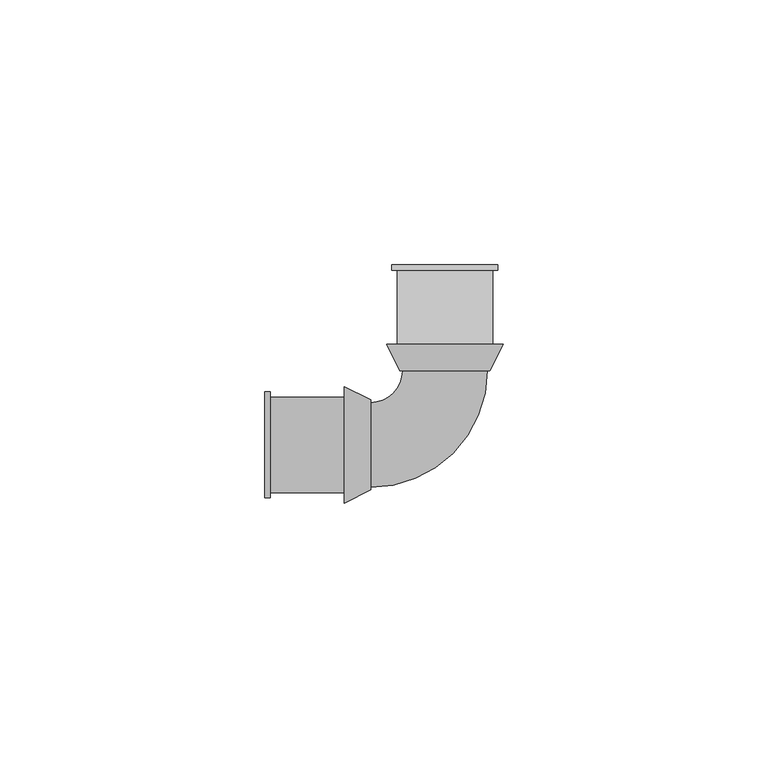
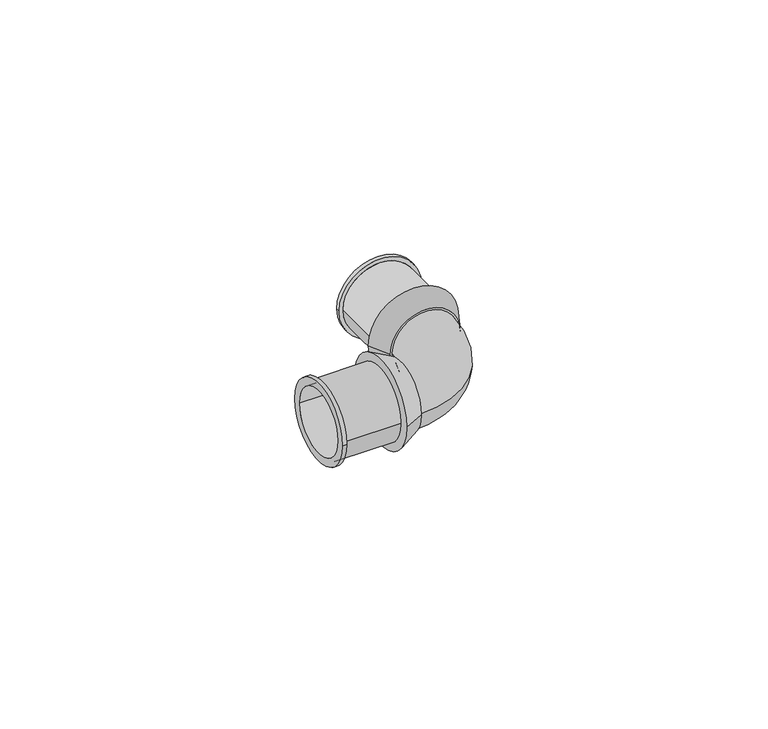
"""IFC4 building model written with IfcOpenShell, lengths in millimetres: pipe fitting geometry, SuperPipe_Elbow_SPressPlus : SuperPipe_Elbow_SPressPlus."""

from ifc_helpers import new_model, si_unit, point, frame, origin, place, context, project, spatial, polyline, circle_curve, ellipse_curve, trimmed, source, transform, mapped, element, save
from ifc_brep_helpers import plane_surface, cylinder_surface, revolved_surface, advanced_brep


def pipe_fitting_f86cb8b1(model_context):
    return source(origin(), model_context, "Body", "AdvancedBrep", [
        advanced_brep(
        [(-14.0, -8.5, 0.0), (-14.0, 8.5, 0.0), (-14.0, 8.0, 0.0), (-14.0, -8.0, 0.0), (-19.0, -11.0, 0.0), (-19.0, 11.0, 0.0), (-19.0, -8.0, 0.0), (-19.0, 8.0, 0.0)],
        [
            (0, 1, circle_curve(frame((-14.0, 0.0, 0.0), z_axis=(1.0, 0.0, 0.0), x_axis=(0.0, -1.0, 0.0)), 8.5)),
            (1, 0, circle_curve(frame((-14.0, 0.0, 0.0), z_axis=(1.0, 0.0, 0.0), x_axis=(0.0, 1.0, 0.0)), 8.5)),
            (2, 3, circle_curve(frame((-14.0, 0.0, 0.0), z_axis=(-1.0, 0.0, 0.0), x_axis=(0.0, 1.0, 0.0)), 8.0)),
            (3, 2, circle_curve(frame((-14.0, 0.0, 0.0), z_axis=(-1.0, 0.0, 0.0), x_axis=(0.0, 1.0, 0.0)), 8.0)),
            (4, 5, circle_curve(frame((-19.0, 0.0, 0.0), z_axis=(-1.0, 0.0, 0.0), x_axis=(0.0, 1.0, 0.0)), 11.0)),
            (5, 4, circle_curve(frame((-19.0, 0.0, 0.0), z_axis=(-1.0, 0.0, 0.0), x_axis=(0.0, -1.0, 0.0)), 11.0)),
            (6, 7, circle_curve(frame((-19.0, 0.0, 0.0), z_axis=(1.0, 0.0, 0.0), x_axis=(0.0, 1.0, 0.0)), 8.0)),
            (7, 6, circle_curve(frame((-19.0, 0.0, 0.0), z_axis=(1.0, 0.0, 0.0), x_axis=(0.0, 1.0, 0.0)), 8.0)),
            (0, 4),
            (5, 1),
            (2, 7),
            (6, 3),
        ],
        [
            plane_surface(frame((-14.0, 0.0, 0.0), z_axis=(1.0, 0.0, 0.0), x_axis=(0.0, 0.0, -1.0))),
            plane_surface(frame((-19.0, 0.0, 0.0), z_axis=(-1.0, 0.0, 0.0), x_axis=(0.0, 0.0, -1.0))),
            revolved_surface(polyline([(-14.0, -8.5, 0.0), (-19.0, -11.0, 0.0)]), (3.0, 0.0, 0.0), (-1.0, 0.0, 0.0)),
            revolved_surface(polyline([(-14.0, 8.5, 0.0), (-19.0, 11.0, 0.0)]), (3.0, 0.0, 0.0), (-1.0, 0.0, 0.0)),
            revolved_surface(polyline([(-14.0, 8.0, 0.0), (-19.0, 8.0, 0.0)]), (-19.0, 0.0, 0.0), (1.0, 0.0, 0.0)),
        ],
        [
            (0, [[1, 2], [3, 4]]),
            (1, [[5, 6], [7, 8]]),
            (2, [[-1, 9, -6, 10]]),
            (3, [[-2, -10, -5, -9]]),
            (4, [[11, -7, 12, -3]]),
            (4, [[-11, -4, -12, -8]]),
        ],
    ),
        advanced_brep(
        [(11.0, 19.0, 0.0), (-11.0, 19.0, 0.0), (8.0, 19.0, 0.0), (-8.0, 19.0, 0.0), (8.5, 14.0, 0.0), (-8.5, 14.0, 0.0), (-8.0, 14.0, 0.0), (8.0, 14.0, 0.0)],
        [
            (0, 1, circle_curve(frame((0.0, 19.0, 0.0), z_axis=(0.0, 1.0, 0.0), x_axis=(1.0, 0.0, 0.0)), 11.0)),
            (1, 0, circle_curve(frame((0.0, 19.0, 0.0), z_axis=(0.0, 1.0, 0.0), x_axis=(-1.0, 0.0, 0.0)), 11.0)),
            (2, 3, circle_curve(frame((0.0, 19.0, 0.0), z_axis=(0.0, -1.0, 0.0), x_axis=(-1.0, 0.0, 0.0)), 8.0)),
            (3, 2, circle_curve(frame((0.0, 19.0, 0.0), z_axis=(0.0, -1.0, 0.0), x_axis=(-1.0, 0.0, 0.0)), 8.0)),
            (4, 5, circle_curve(frame((0.0, 14.0, 0.0), z_axis=(0.0, -1.0, 0.0), x_axis=(-1.0, 0.0, 0.0)), 8.5)),
            (5, 4, circle_curve(frame((0.0, 14.0, 0.0), z_axis=(0.0, -1.0, 0.0), x_axis=(1.0, 0.0, 0.0)), 8.5)),
            (6, 7, circle_curve(frame((0.0, 14.0, 0.0), z_axis=(0.0, 1.0, 0.0), x_axis=(-1.0, 0.0, 0.0)), 8.0)),
            (7, 6, circle_curve(frame((0.0, 14.0, 0.0), z_axis=(0.0, 1.0, 0.0), x_axis=(-1.0, 0.0, 0.0)), 8.0)),
            (0, 4),
            (5, 1),
            (6, 3),
            (2, 7),
        ],
        [
            plane_surface(frame((0.0, 19.0, 0.0), z_axis=(0.0, 1.0, 0.0), x_axis=(0.0, 0.0, -1.0))),
            plane_surface(frame((0.0, 14.0, 0.0), z_axis=(0.0, -1.0, 0.0), x_axis=(0.0, 0.0, -1.0))),
            revolved_surface(polyline([(-8.5, 14.0, 0.0), (-11.0, 19.0, 0.0)]), (0.0, -3.0, 0.0), (0.0, 1.0, 0.0)),
            revolved_surface(polyline([(8.5, 14.0, 0.0), (11.0, 19.0, 0.0)]), (0.0, -3.0, 0.0), (0.0, 1.0, 0.0)),
            revolved_surface(polyline([(-8.0, 14.0, 0.0), (-8.0, 19.0, 0.0)]), (0.0, 14.0, 0.0), (0.0, -1.0, 0.0)),
        ],
        [
            (0, [[1, 2], [3, 4]]),
            (1, [[5, 6], [7, 8]]),
            (2, [[-1, 9, -6, 10]]),
            (3, [[-2, -10, -5, -9]]),
            (4, [[11, -3, 12, -7]]),
            (4, [[-11, -8, -12, -4]]),
        ],
    ),
        advanced_brep(
        [(-34.0, -10.0, 0.0), (-34.0, 10.0, 0.0), (-34.0, -8.0, 0.0), (-34.0, 8.0, 0.0), (-19.0, -9.0, 0.0), (-19.0, 9.0, 0.0), (-19.0, -8.0, 0.0), (-19.0, 8.0, 0.0), (-33.0, 9.0, 0.0), (-33.0, -9.0, 0.0), (-33.0, -10.0, 0.0), (-33.0, 10.0, 0.0)],
        [
            (0, 1, circle_curve(frame((-34.0, 0.0, 0.0), z_axis=(-1.0, 0.0, 0.0), x_axis=(0.0, 1.0, 0.0)), 10.0)),
            (1, 0, circle_curve(frame((-34.0, 0.0, 0.0), z_axis=(-1.0, 0.0, 0.0), x_axis=(0.0, 1.0, 0.0)), 10.0)),
            (2, 3, circle_curve(frame((-34.0, 0.0, 0.0), z_axis=(1.0, 0.0, 0.0), x_axis=(0.0, 1.0, 0.0)), 8.0)),
            (3, 2, circle_curve(frame((-34.0, 0.0, 0.0), z_axis=(1.0, 0.0, 0.0), x_axis=(0.0, 1.0, 0.0)), 8.0)),
            (4, 5, circle_curve(frame((-19.0, 0.0, 0.0), z_axis=(1.0, 0.0, 0.0), x_axis=(0.0, 1.0, 0.0)), 9.0)),
            (5, 4, circle_curve(frame((-19.0, 0.0, 0.0), z_axis=(1.0, 0.0, 0.0), x_axis=(0.0, 1.0, 0.0)), 9.0)),
            (6, 7, circle_curve(frame((-19.0, 0.0, 0.0), z_axis=(-1.0, 0.0, 0.0), x_axis=(0.0, 1.0, 0.0)), 8.0)),
            (7, 6, circle_curve(frame((-19.0, 0.0, 0.0), z_axis=(-1.0, 0.0, 0.0), x_axis=(0.0, 1.0, 0.0)), 8.0)),
            (2, 6),
            (7, 3),
            (5, 8),
            (8, 9, circle_curve(frame((-33.0, 0.0, 0.0), z_axis=(1.0, 0.0, 0.0), x_axis=(0.0, 1.0, 0.0)), 9.0)),
            (9, 4),
            (9, 8, circle_curve(frame((-33.0, 0.0, 0.0), z_axis=(1.0, 0.0, 0.0), x_axis=(0.0, 1.0, 0.0)), 9.0)),
            (10, 11, circle_curve(frame((-33.0, 0.0, 0.0), z_axis=(1.0, 0.0, 0.0), x_axis=(0.0, 1.0, 0.0)), 10.0)),
            (11, 10, circle_curve(frame((-33.0, 0.0, 0.0), z_axis=(1.0, 0.0, 0.0), x_axis=(0.0, 1.0, 0.0)), 10.0)),
            (0, 10),
            (11, 1),
        ],
        [
            plane_surface(frame((-34.0, 0.0, 0.0), z_axis=(-1.0, 0.0, 0.0), x_axis=(0.0, 0.0, 1.0))),
            plane_surface(frame((-19.0, 0.0, 0.0), z_axis=(1.0, 0.0, 0.0), x_axis=(0.0, 0.0, 1.0))),
            revolved_surface(polyline([(-19.0, 8.0, 0.0), (-34.0, 8.0, 0.0)]), (-34.0, 0.0, 0.0), (1.0, 0.0, 0.0)),
            cylinder_surface(frame((-34.0, 0.0, 0.0), z_axis=(-1.0, 0.0, 0.0), x_axis=(0.0, 1.0, 0.0)), 9.0),
            plane_surface(frame((-33.0, 0.0, 0.0), z_axis=(1.0, 0.0, 0.0), x_axis=(0.0, 0.0, 1.0))),
            cylinder_surface(frame((-34.0, 0.0, 0.0), z_axis=(-1.0, 0.0, 0.0), x_axis=(0.0, 1.0, 0.0)), 10.0),
        ],
        [
            (0, [[1, 2], [3, 4]]),
            (1, [[5, 6], [7, 8]]),
            (2, [[-3, 9, -8, 10]]),
            (2, [[-4, -10, -7, -9]]),
            (3, [[-6, 11, 12, 13]]),
            (3, [[-5, -13, 14, -11]]),
            (4, [[15, 16], [-12, -14]]),
            (5, [[-1, 17, -16, 18]]),
            (5, [[-2, -18, -15, -17]]),
        ],
    ),
        advanced_brep(
        [(9.0, 19.0, 0.0), (-9.0, 19.0, 0.0), (8.0, 19.0, 0.0), (-8.0, 19.0, 0.0), (10.0, 34.0, 0.0), (-10.0, 34.0, 0.0), (8.0, 34.0, 0.0), (-8.0, 34.0, 0.0), (9.0, 33.0, 0.0), (-9.0, 33.0, 0.0), (10.0, 33.0, 0.0), (-10.0, 33.0, 0.0)],
        [
            (0, 1, circle_curve(frame((0.0, 19.0, 0.0), z_axis=(0.0, -1.0, 0.0), x_axis=(-1.0, 0.0, 0.0)), 9.0)),
            (1, 0, circle_curve(frame((0.0, 19.0, 0.0), z_axis=(0.0, -1.0, 0.0), x_axis=(-1.0, 0.0, 0.0)), 9.0)),
            (2, 3, circle_curve(frame((0.0, 19.0, 0.0), z_axis=(0.0, 1.0, 0.0), x_axis=(-1.0, 0.0, 0.0)), 8.0)),
            (3, 2, circle_curve(frame((0.0, 19.0, 0.0), z_axis=(0.0, 1.0, 0.0), x_axis=(-1.0, 0.0, 0.0)), 8.0)),
            (4, 5, circle_curve(frame((0.0, 34.0, 0.0), z_axis=(0.0, 1.0, 0.0), x_axis=(-1.0, 0.0, 0.0)), 10.0)),
            (5, 4, circle_curve(frame((0.0, 34.0, 0.0), z_axis=(0.0, 1.0, 0.0), x_axis=(-1.0, 0.0, 0.0)), 10.0)),
            (6, 7, circle_curve(frame((0.0, 34.0, 0.0), z_axis=(0.0, -1.0, 0.0), x_axis=(-1.0, 0.0, 0.0)), 8.0)),
            (7, 6, circle_curve(frame((0.0, 34.0, 0.0), z_axis=(0.0, -1.0, 0.0), x_axis=(-1.0, 0.0, 0.0)), 8.0)),
            (0, 8),
            (8, 9, circle_curve(frame((0.0, 33.0, 0.0), z_axis=(0.0, -1.0, 0.0), x_axis=(-1.0, 0.0, 0.0)), 9.0)),
            (9, 1),
            (9, 8, circle_curve(frame((0.0, 33.0, 0.0), z_axis=(0.0, -1.0, 0.0), x_axis=(-1.0, 0.0, 0.0)), 9.0)),
            (2, 6),
            (7, 3),
            (10, 11, circle_curve(frame((0.0, 33.0, 0.0), z_axis=(0.0, -1.0, 0.0), x_axis=(-1.0, 0.0, 0.0)), 10.0)),
            (11, 10, circle_curve(frame((0.0, 33.0, 0.0), z_axis=(0.0, -1.0, 0.0), x_axis=(-1.0, 0.0, 0.0)), 10.0)),
            (11, 5),
            (4, 10),
        ],
        [
            plane_surface(frame((0.0, 19.0, 0.0), z_axis=(0.0, -1.0, 0.0), x_axis=(0.0, 0.0, 1.0))),
            plane_surface(frame((0.0, 34.0, 0.0), z_axis=(0.0, 1.0, 0.0), x_axis=(0.0, 0.0, 1.0))),
            cylinder_surface(frame((0.0, 19.0, 0.0), z_axis=(0.0, -1.0, 0.0), x_axis=(-1.0, 0.0, 0.0)), 9.0),
            revolved_surface(polyline([(-8.0, 34.0, 0.0), (-8.0, 19.0, 0.0)]), (0.0, 19.0, 0.0), (0.0, 1.0, 0.0)),
            plane_surface(frame((0.0, 33.0, 0.0), z_axis=(0.0, -1.0, 0.0), x_axis=(0.0, 0.0, 1.0))),
            cylinder_surface(frame((0.0, 33.0, 0.0), z_axis=(0.0, -1.0, 0.0), x_axis=(-1.0, 0.0, 0.0)), 10.0),
        ],
        [
            (0, [[1, 2], [3, 4]]),
            (1, [[5, 6], [7, 8]]),
            (2, [[-1, 9, 10, 11]]),
            (2, [[-2, -11, 12, -9]]),
            (3, [[-3, 13, -8, 14]]),
            (3, [[-4, -14, -7, -13]]),
            (4, [[15, 16], [-10, -12]]),
            (5, [[-16, 17, -5, 18]]),
            (5, [[-15, -18, -6, -17]]),
        ],
    ),
        advanced_brep(
        [(-14.0, -8.0, 0.0), (-14.0, 8.0, 0.0), (8.0, 14.0, 0.0), (-8.0, 14.0, 0.0)],
        [
            (0, 1, circle_curve(frame((-14.0, 0.0, 0.0), z_axis=(-1.0, 0.0, 0.0), x_axis=(0.0, 1.0, 0.0)), 8.0)),
            (1, 0, circle_curve(frame((-14.0, 0.0, 0.0), z_axis=(-1.0, 0.0, 0.0), x_axis=(0.0, 1.0, 0.0)), 8.0)),
            (2, 3, circle_curve(frame((0.0, 14.0, 0.0), z_axis=(0.0, 1.0, 0.0), x_axis=(-1.0, 0.0, 0.0)), 8.0)),
            (3, 2, circle_curve(frame((0.0, 14.0, 0.0), z_axis=(0.0, 1.0, 0.0), x_axis=(-1.0, 0.0, 0.0)), 8.0)),
            (3, 1, circle_curve(frame((-14.0, 14.0, 0.0), z_axis=(0.0, 0.0, -1.0), x_axis=(0.0, -1.0, 0.0)), 6.0)),
            (0, 2, circle_curve(frame((-14.0, 14.0, 0.0), z_axis=(0.0, 0.0, 1.0), x_axis=(0.0, -1.0, 0.0)), 22.0)),
        ],
        [
            plane_surface(frame((-14.0, 0.0, 0.0), z_axis=(-1.0, 0.0, 0.0), x_axis=(0.0, 0.0, 1.0))),
            plane_surface(frame((0.0, 14.0, 0.0), z_axis=(0.0, 1.0, 0.0), x_axis=(0.0, 0.0, 1.0))),
            revolved_surface(trimmed(ellipse_curve(frame((-14.0, 0.0, 0.0), z_axis=(-1.0, 0.0, 0.0), x_axis=(0.0, 1.0, 0.0)), 8.0, 8.0), [point((-14.0, -8.0, 0.0))], [point((-14.0, 8.0, 0.0))], True, "CARTESIAN"), (-14.0, 14.0, 0.0), (0.0, 0.0, 1.0)),
            revolved_surface(trimmed(ellipse_curve(frame((-14.0, 0.0, 0.0), z_axis=(-1.0, 0.0, 0.0), x_axis=(0.0, 1.0, 0.0)), 8.0, 8.0), [point((-14.0, 8.0, 0.0))], [point((-14.0, -8.0, 0.0))], True, "CARTESIAN"), (-14.0, 14.0, 0.0), (0.0, 0.0, 1.0)),
        ],
        [
            (0, [[1, 2]]),
            (1, [[3, 4]]),
            (2, [[5, -1, 6, -4]]),
            (3, [[-6, -2, -5, -3]]),
        ],
    ),
    ])


if __name__ == "__main__":
    model = new_model("IFC4")
    model_context = context("Model", 3, world=origin())
    ifc_project = project(units=[si_unit("LENGTHUNIT", "METRE", prefix="MILLI")], contexts=[model_context])
    site = spatial("IfcSite", under=ifc_project)
    building = spatial("IfcBuilding", under=site)
    placement = place(None, origin())
    pipe_fitting_shape = pipe_fitting_f86cb8b1(model_context)
    element("IfcPipeFitting", 1, ObjectType="SuperPipe_Elbow_SPressPlus : SuperPipe_Elbow_SPressPlus", at=placement, inside=building, context=model_context, shape_type="MappedRepresentation", body=[
        mapped(pipe_fitting_shape, transform((0.0, 0.0, 0.0), x_axis=(1.0, 0.0, 0.0), y_axis=(0.0, 1.0, 0.0), z_axis=(0.0, 0.0, 1.0))),
    ])
    save(model, "model.ifc")
